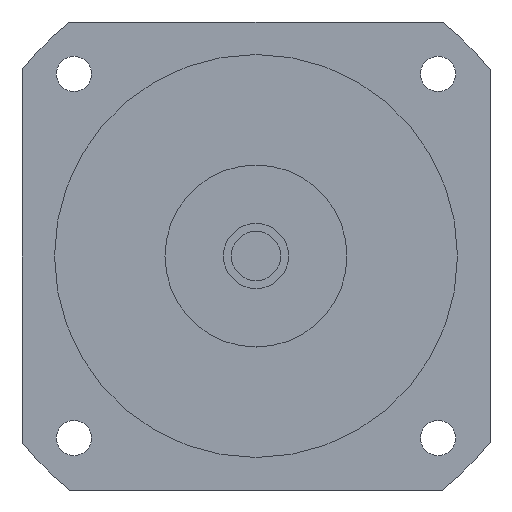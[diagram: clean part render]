
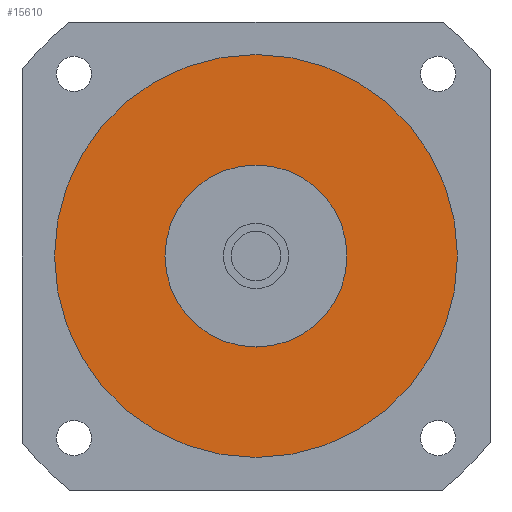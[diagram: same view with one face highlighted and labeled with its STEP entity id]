
A CAD part, left-side view. The second image highlights one B-rep face of the part: STEP entity #15610.
In plain terms, the highlighted planar face has unit normal (-1, 0, 0) as drawn and (0, 0, -1) by its records, which use the part's own axes.
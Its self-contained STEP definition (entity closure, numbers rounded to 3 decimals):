
#15030=CARTESIAN_POINT('',(77.5,0.,-59.7));
#15040=VERTEX_POINT('',#15030);
#15130=CARTESIAN_POINT('',(-77.5,0.,-59.7));
#15140=VERTEX_POINT('',#15130);
#15170=CARTESIAN_POINT('',(0.,0.,
-59.7));
#15180=DIRECTION('',(0.,0.,1.));
#15190=DIRECTION('',(0.,1.,0.));
#15200=AXIS2_PLACEMENT_3D('',#15170,#15180,#15190);
#15210=CIRCLE('',#15200,77.5);
#15220=CARTESIAN_POINT('',(0.,77.5,-59.7));
#15230=VERTEX_POINT('',#15220);
#15240=EDGE_CURVE('',#15230,#15140,#15210,.T.);
#15260=EDGE_CURVE('',#15040,#15230,#15210,.T.);
#15310=CARTESIAN_POINT('',(0.,0.,
-59.7));
#15320=DIRECTION('',(0.,0.,1.));
#15330=DIRECTION('',(-1.,0.,0.));
#15340=AXIS2_PLACEMENT_3D('',#15310,#15320,#15330);
#15350=PLANE('',#15340);
#15360=ORIENTED_EDGE('',*,*,#15240,.F.);
#15370=EDGE_CURVE('',#15140,#15040,#15210,.T.);
#15380=ORIENTED_EDGE('',*,*,#15370,.F.);
#15390=ORIENTED_EDGE('',*,*,#15260,.F.);
#15400=EDGE_LOOP('',(#15390,#15380,#15360));
#15410=FACE_OUTER_BOUND('',#15400,.T.);
#15420=CARTESIAN_POINT('',(0.,0.,
-59.7));
#15430=DIRECTION('',(0.,0.,1.));
#15440=DIRECTION('',(0.,1.,0.));
#15450=AXIS2_PLACEMENT_3D('',#15420,#15430,#15440);
#15460=CIRCLE('',#15450,35.);
#15470=CARTESIAN_POINT('',(-35.,0.,-59.7));
#15480=VERTEX_POINT('',#15470);
#15490=CARTESIAN_POINT('',(35.,0.,-59.7));
#15500=VERTEX_POINT('',#15490);
#15510=EDGE_CURVE('',#15480,#15500,#15460,.T.);
#15520=ORIENTED_EDGE('',*,*,#15510,.T.);
#15530=CARTESIAN_POINT('',(0.,35.,-59.7));
#15540=VERTEX_POINT('',#15530);
#15550=EDGE_CURVE('',#15540,#15480,#15460,.T.);
#15560=ORIENTED_EDGE('',*,*,#15550,.T.);
#15570=EDGE_CURVE('',#15500,#15540,#15460,.T.);
#15580=ORIENTED_EDGE('',*,*,#15570,.T.);
#15590=EDGE_LOOP('',(#15580,#15560,#15520));
#15600=FACE_BOUND('',#15590,.T.);
#15610=ADVANCED_FACE('',(#15410,#15600),#15350,.F.);
